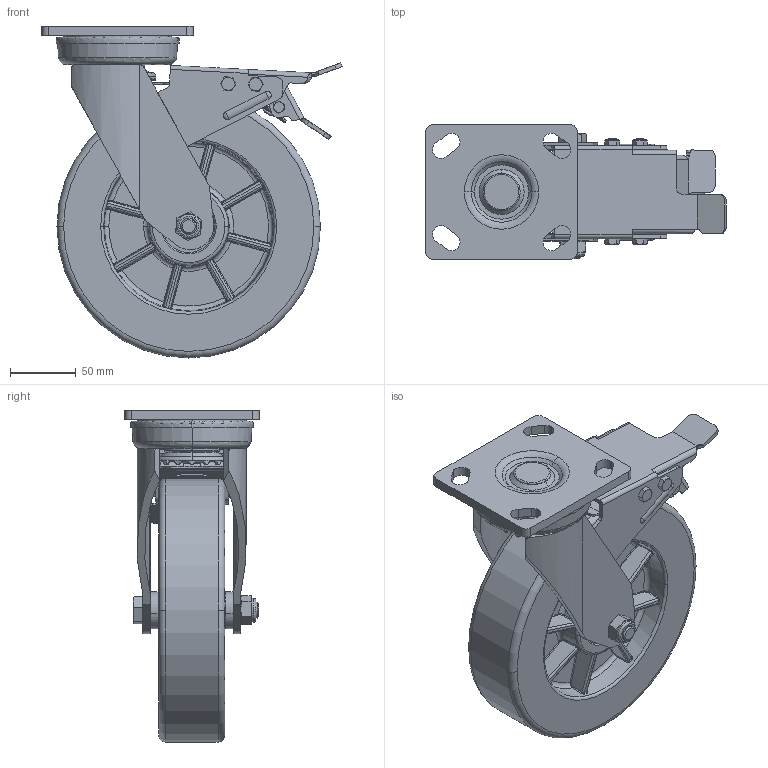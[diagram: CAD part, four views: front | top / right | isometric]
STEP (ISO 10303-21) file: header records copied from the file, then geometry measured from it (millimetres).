
FILE_DESCRIPTION (( 'STEP AP203' ), '1' );
FILE_NAME ('36A8寸刹车（小底板）.STEP', '2026-03-13T01:25:05', ( 'MUSE' ), ( 'MUSE' ), 'SwSTEP 2.0', 'SolidWorks 2024', '' );
FILE_SCHEMA (( 'CONFIG_CONTROL_DESIGN' ));
Products named in the file (1): 36A8寸刹车（小底板）
Bounding box: 228 x 102 x 252 mm (x, y, z)
Volume: 1572218.2 mm3; surface area: 356484.3 mm2
Topology: 1 solids, 7 shells, 3697 faces, 9623 edges, 5762 vertices
Faces by surface type: plane 2016, cylinder 877, bspline 551, cone 130, torus 119, sphere 4
Entity records: 143537 total; most frequent: CARTESIAN_POINT 57345, ORIENTED_EDGE 19220, DIRECTION 16395, EDGE_CURVE 9610, LINE 5923, VECTOR 5923, VERTEX_POINT 5762, AXIS2_PLACEMENT_3D 5236
